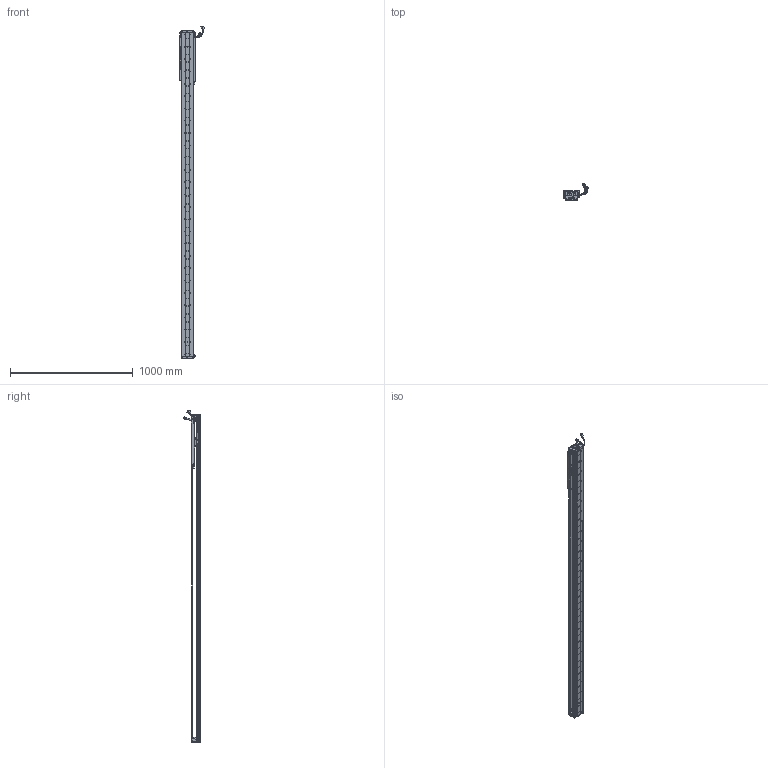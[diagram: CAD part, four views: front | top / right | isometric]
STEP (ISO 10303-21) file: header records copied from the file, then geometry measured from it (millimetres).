
FILE_DESCRIPTION (( 'STEP AP203' ), '1' );
FILE_NAME ('Z5-RY100D-1-L500-B-K.SLDASM_2200.step', '2021-05-17T03:34:39', ( '盈信电脑' ), ( '东莞市道滘镇水果街19号' ), 'SwSTEP 2.0', 'SolidWorks 2016', '' );
FILE_SCHEMA (( 'CONFIG_CONTROL_DESIGN' ));
Length unit declared in the file: millimetre
Products named in the file (36): PSLH080_PSLF2; 覜茼ん672; Z-RY100D覜茼んえ; PBU_SHEET; HARNESS; 140雄赽晤鎢ん堤盄; SCREW-M1.6-2; HARNESS-Part-1; SCALE-Part-1; HARNESS-Part-2; SEAL-Part-1; Z5-RY100D-500-倰第菁釱_2200; SCREW-M1.7; Z5-RY100铝滑块（21款）; SCREW-M1.6-3; SHIELDPLATE; 140蚥薯蝶輸; COVER; 100-Z-臏賑輸盄裔(21遴); Z-RY100D詩湍狟揤裔; Z-100詩湍傷裔啣; 080黍杅芛假蚾釱21遴; Z-RY100D詩湍奻揤裔; LABEL-Part-1; Z5-RY100-L500詩湍90mm遵_2200; SEAL; LABEL; SCREW-M1.6; 榋妏寠巭燃_暯_M2_2; Z5-RY100D-1-L500-B-K.SLDASM_2200; HOLDER0; SCALE; SCREW-M1.6-1; COVER-Part-1; SCALE-Part-2; SCREW-M1.7-1
Assembly tree (43 placements, depth 4):
  Z5-RY100D-1-L500-B-K.SLDASM_2200
    Z5-RY100D-500-倰第菁釱_2200
    Z5-RY100铝滑块（21款）
    PSLH080_PSLF2
      SCALE
        SCALE-Part-1
        SCALE-Part-2
      HARNESS
        HARNESS-Part-1
        HARNESS-Part-2
      LABEL
        LABEL-Part-1
      COVER
        COVER-Part-1
      SEAL
        SEAL-Part-1
      榋妏寠巭燃_暯_M2_2
      SHIELDPLATE
      SCREW-M1.7
      SCREW-M1.7-1
      PBU_SHEET
      SCREW-M1.6
      SCREW-M1.6-1
      SCREW-M1.6-2
      SCREW-M1.6-3
      HOLDER0
    080黍杅芛假蚾釱21遴
    Z-100詩湍傷裔啣  x2
    140蚥薯蝶輸  x2
    覜茼ん672  x3
    Z-RY100D覜茼んえ  x3
    100-Z-臏賑輸盄裔(21遴)
    140雄赽晤鎢ん堤盄
    Z5-RY100-L500詩湍90mm遵_2200
    Z-RY100D詩湍狟揤裔  x2
    Z-RY100D詩湍奻揤裔  x2
Bounding box: 205.79 x 136.11 x 2700.43 mm (x, y, z)
Volume: 5148873 mm3; surface area: 1993747.3 mm2
Topology: 38 solids, 38 shells, 3031 faces, 8269 edges, 5280 vertices
Faces by surface type: cylinder 1494, plane 1189, cone 226, torus 69, bspline 53
Entity records: 87827 total; most frequent: CARTESIAN_POINT 18375, DIRECTION 14179, ORIENTED_EDGE 13418, EDGE_CURVE 6709, AXIS2_PLACEMENT_3D 5336, VERTEX_POINT 4348, VECTOR 3507, LINE 3507
